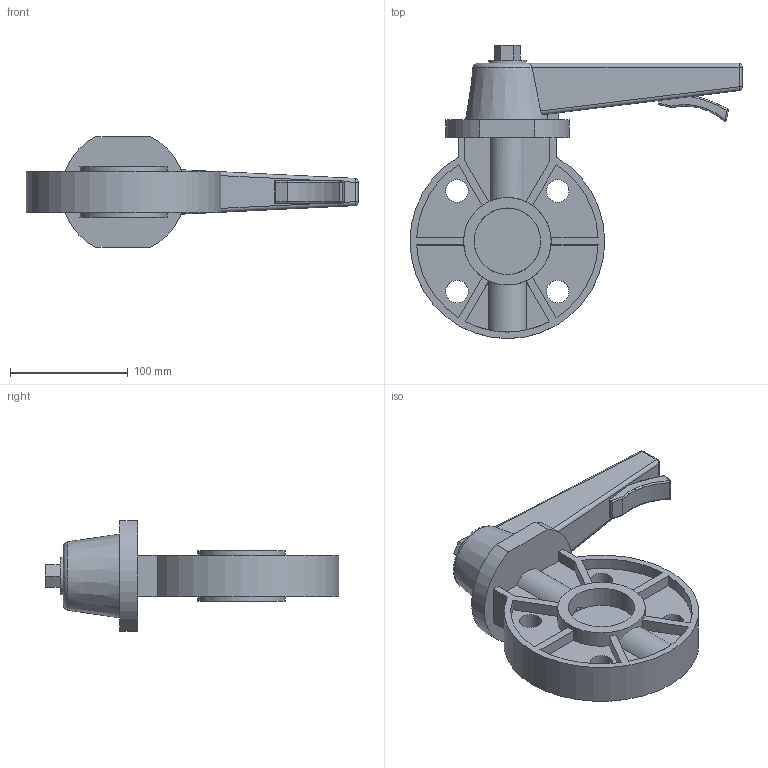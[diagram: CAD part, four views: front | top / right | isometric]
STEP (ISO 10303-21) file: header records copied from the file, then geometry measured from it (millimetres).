
FILE_DESCRIPTION (( 'STEP AP214' ), '1' );
FILE_NAME ('411N - 2 Inch Assem.step', '2020-12-08T09:58:42', ( '' ), ( '' ), 'SwSTEP 2.0', 'SolidWorks 2019', '' );
FILE_SCHEMA (( 'AUTOMOTIVE_DESIGN' ));
Length unit declared in the file: millimetre
Products named in the file (1): 411N - 2 Inch Assem
Bounding box: 281.43 x 248.67 x 93.98 mm (x, y, z)
Volume: 936670 mm3; surface area: 164778 mm2
Topology: 4 solids, 4 shells, 176 faces, 456 edges, 294 vertices
Faces by surface type: plane 102, cylinder 60, torus 5, sphere 4, bspline 4, cone 1
Full cylindrical faces by diameter (mm): 8.89 x3, 14 x3, 19.05 x4, 31.75 x1, 56.388 x1, 74.168 x2
Entity records: 7850 total; most frequent: CARTESIAN_POINT 1681, ORIENTED_EDGE 858, DIRECTION 855, EDGE_CURVE 429, AXIS2_PLACEMENT_3D 301, VERTEX_POINT 283, VECTOR 253, LINE 253
